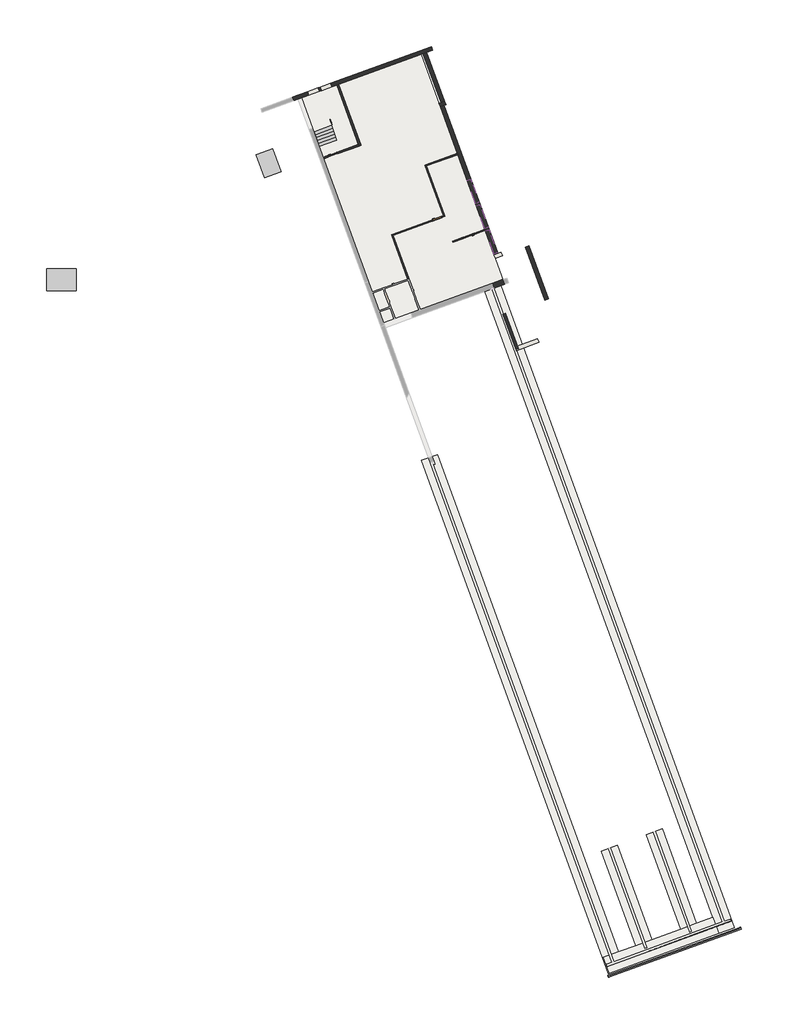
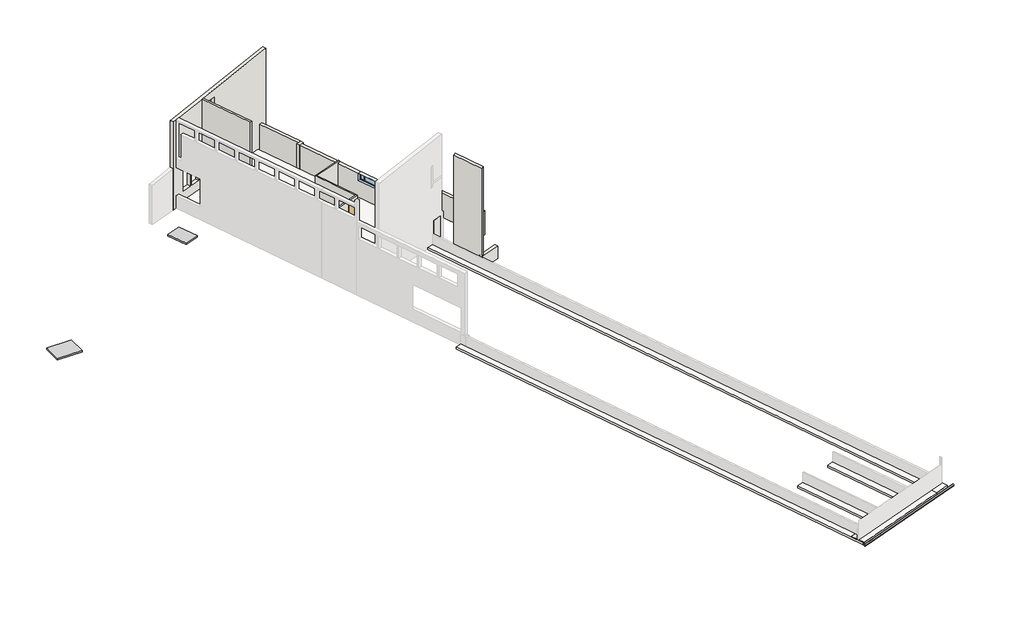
# One storey, part 2 of 2: 16 walls, 5 footings, 3 doors, 3 windows, 2 ramps, 1 pipe segment, 1 railing, 1 slab, 1 stair flight.
"""IFC4 building model written with IfcOpenShell, lengths in millimetres."""

from ifc_helpers import new_model, si_unit, point, frame, frame_2d, origin, place, context, project, spatial, polyline, circle_curve, trimmed, segment, composite_curve, outline, extrude, faceted_brep, transform, mapped, element, save
from components import door_10x21_b150b6ae, door_8x21_e3e5b9c7, door_9x21_ce0798c1, railing_900mm_04ecc8fe, ramp_1_f57f52c1, ramp_1_bff8a53a, window_19_5x7_a99c75e9

model = new_model("IFC4")

# Units and contexts
model_context = context("Model", 3, world=origin())
ifc_project = project(units=[si_unit("LENGTHUNIT", "METRE", prefix="MILLI")], contexts=[model_context])

# Site, building, storey
site = spatial("IfcSite", under=ifc_project)
building = spatial("IfcBuilding", under=site)
storey = spatial("IfcBuildingStorey", under=building, Name="0.8 kjellar tilbygg", Elevation=1500.0)

# Doors
placement = place(None, origin())
door_10x21_shape = door_10x21_b150b6ae(model_context)
element("IfcDoor", 1, ObjectType="Innerdør Slett (Diplomat) : 10x21", at=placement, inside=storey, context=model_context, shape_type="MappedRepresentation", body=[
    mapped(door_10x21_shape, transform((29794.6029803, 17775.0414957, 1500.0), x_axis=(0.9396926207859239, 0.34202014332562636, 0.0), y_axis=(-0.34202014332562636, 0.9396926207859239, 0.0), z_axis=(0.0, 0.0, 1.0))),
])
door_8x21_shape = door_8x21_e3e5b9c7(model_context)
element("IfcDoor", 2, ObjectType="Innerdør Slett (Diplomat) : 8x21", at=placement, inside=storey, context=model_context, shape_type="MappedRepresentation", body=[
    mapped(door_8x21_shape, transform((18970.8154774, 24288.6710435, 1500.0), x_axis=(-0.9396926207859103, -0.3420201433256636, 0.0), y_axis=(0.3420201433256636, -0.9396926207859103, 0.0), z_axis=(0.0, 0.0, 1.0))),
])
door_9x21_shape = door_9x21_ce0798c1(model_context)
element("IfcDoor", 3, ObjectType="Innerdør Slett (Diplomat) : 9x21", at=placement, inside=storey, context=model_context, shape_type="MappedRepresentation", body=[
    mapped(door_9x21_shape, transform((27343.1936905, 19179.4338847, 1500.0), x_axis=(-0.9396926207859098, -0.34202014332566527, 0.0), y_axis=(0.34202014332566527, -0.9396926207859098, 0.0), z_axis=(0.0, 0.0, 1.0))),
])

# Footings
element("IfcFooting", 4, ObjectType="Wall Foundation 200", at=placement, inside=storey, context=model_context, shape_type="Brep", body=[
    faceted_brep([(31142.3505252, 13336.4468127, 1300.0), (32410.9355633, 13798.1740062, 1300.0), (32410.9355633, 13798.1740062, 1100.0), (31142.3505252, 13336.4468127, 1100.0), (49358.3433587, -36711.5821704, 1300.0), (49820.0705522, -37980.1672084, 1300.0), (51088.6555903, -37518.4400149, 1300.0), (51088.6555903, -37518.4400149, 1100.0), (49820.0705522, -37980.1672084, 1100.0), (49358.3433587, -36711.5821704, 1100.0)], [[[0, 1, 2, 3]], [[0, 4, 5, 6, 1]], [[2, 1, 6, 7]], [[3, 2, 7, 8, 9]], [[0, 3, 9, 8, 5, 4]], [[6, 5, 8, 7]]]),
])
element("IfcFooting", 5, ObjectType="Wall Foundation 200", at=placement, inside=storey, context=model_context, shape_type="Brep", body=[
    faceted_brep([(41080.9291789, -41160.9545413, 1100.0), (41080.9291789, -41160.9545413, 1300.0), (40619.2019854, -39892.3695033, 1300.0), (40619.2019854, -39892.3695033, 1100.0), (49820.0705522, -37980.1672084, 1300.0), (49358.3433587, -36711.5821704, 1300.0), (48056.8690789, -37185.2800689, 1300.0), (46788.2840409, -37647.0072624, 1300.0), (44467.2432675, -38491.7970164, 1300.0), (43198.6582295, -38953.5242099, 1300.0), (41793.8177614, -39464.8443241, 1300.0), (49820.0705522, -37980.1672084, 1100.0), (41793.8177614, -39464.8443241, 1100.0), (43198.6582295, -38953.5242099, 1100.0), (44467.2432675, -38491.7970164, 1100.0), (46788.2840409, -37647.0072624, 1100.0), (48056.8690789, -37185.2800689, 1100.0), (49358.3433587, -36711.5821704, 1100.0)], [[[0, 1, 2, 3]], [[2, 1, 4, 5, 6, 7, 8, 9, 10]], [[1, 0, 11, 4]], [[0, 3, 12, 13, 14, 15, 16, 17, 11]], [[3, 2, 10, 9, 8, 7, 6, 5, 17, 16, 15, 14, 13, 12]], [[5, 4, 11, 17]]]),
])
element("IfcFooting", 6, ObjectType="Wall Foundation 200", at=placement, inside=storey, context=model_context, shape_type="SweptSolid", body=[
    extrude(outline(polyline([(26050.5776214, -157.7834705), (27319.1626594, 303.943723), (41793.8177614, -39464.8443241), (40619.2019854, -39892.3695033), (41080.9291789, -41160.9545413), (40986.9599168, -41195.1565557), (26050.5776214, -157.7834705)])), frame((0.0, 0.0, 1100.0), z_axis=(0.0, 0.0, 1.0), x_axis=(1.0, 0.0, 0.0)), (0.0, 0.0, 1.0), 200.0),
])
element("IfcFooting", 7, ObjectType="Wall Foundation 200", at=placement, inside=storey, context=model_context, shape_type="SweptSolid", body=[
    extrude(outline(polyline([(44038.4420886, -30091.8785912), (45307.0271266, -29630.1513977), (48056.8690789, -37185.2800689), (46788.2840409, -37647.0072624), (44038.4420886, -30091.8785912)])), frame((0.0, 0.0, 1100.0), z_axis=(0.0, 0.0, 1.0), x_axis=(1.0, 0.0, 0.0)), (0.0, 0.0, 1.0), 200.0),
])
element("IfcFooting", 8, ObjectType="Wall Foundation 200", at=placement, inside=storey, context=model_context, shape_type="SweptSolid", body=[
    extrude(outline(polyline([(40448.8162771, -31398.3955387), (41717.4013152, -30936.6683452), (44467.2432675, -38491.7970164), (43198.6582295, -38953.5242099), (40448.8162771, -31398.3955387)])), frame((0.0, 0.0, 1100.0), z_axis=(0.0, 0.0, 1.0), x_axis=(1.0, 0.0, 0.0)), (0.0, 0.0, 1.0), 200.0),
])

# Pipe segment
element("IfcPipeSegment", 9, ObjectType="Default", at=placement, inside=storey, context=model_context, shape_type="SweptSolid", body=[
    extrude(outline(composite_curve([segment(trimmed(circle_curve(frame_2d((0.0, 84.1375)), 84.1375), [point((84.1375, 84.1375))], [point((0.0, 0.0))], False, "CARTESIAN"), True, "CONTINUOUS"), segment(trimmed(circle_curve(frame_2d((0.0, 84.1375)), 84.1375), [point((0.0, 0.0))], [point((-84.1375, 84.1375))], False, "CARTESIAN"), True, "CONTINUOUS"), segment(trimmed(circle_curve(frame_2d((0.0, 84.1375)), 84.1375), [point((-84.1375, 84.1375))], [point((0.0, 168.275))], False, "CARTESIAN"), True, "CONTINUOUS"), segment(trimmed(circle_curve(frame_2d((0.0, 84.1375)), 84.1375), [point((0.0, 168.275))], [point((84.1375, 84.1375))], False, "CARTESIAN"), True, "CONTINUOUS")], self_intersect=False)), frame((40987.2439162, -41427.6293768, 1284.1375), z_axis=(0.9396926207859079, 0.3420201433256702, 0.0), x_axis=(0.3420201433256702, -0.9396926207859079, 0.0)), (0.0, 0.0, 1.0), 11300.0),
])

# Railing
railing_900mm_shape = railing_900mm_04ecc8fe(model_context)
element("IfcRailing", 10, ObjectType="900mm", at=placement, inside=storey, context=model_context, shape_type="MappedRepresentation", body=[
    mapped(railing_900mm_shape, transform((0.0, 0.0, 0.0), x_axis=(1.0, 0.0, 0.0), y_axis=(0.0, 1.0, 0.0), z_axis=(0.0, 0.0, 1.0))),
])

# Ramps
ramp_1_shape = ramp_1_f57f52c1(model_context)
element("IfcRamp", 11, ObjectType="Ramp 1", at=placement, inside=storey, context=model_context, shape_type="MappedRepresentation", body=[
    mapped(ramp_1_shape, transform((0.0, 0.0, 0.0), x_axis=(1.0, 0.0, 0.0), y_axis=(0.0, 1.0, 0.0), z_axis=(0.0, 0.0, 1.0))),
])
ramp_1_2_shape = ramp_1_bff8a53a(model_context)
element("IfcRamp", 12, ObjectType="Ramp 1", at=placement, inside=storey, context=model_context, shape_type="MappedRepresentation", body=[
    mapped(ramp_1_2_shape, transform((0.0, 0.0, 0.0), x_axis=(1.0, 0.0, 0.0), y_axis=(0.0, 1.0, 0.0), z_axis=(0.0, 0.0, 1.0))),
])

# Slab
element("IfcSlab", 13, ObjectType="Dekker Betong 200", at=placement, inside=storey, context=model_context, shape_type="SweptSolid", body=[
    extrude(outline(polyline([(16461.4359079, 28819.5908192), (25999.3160089, 32291.0952739), (32603.9181122, 14145.1001306), (23066.0380113, 10673.5956758), (16461.4359079, 28819.5908192)])), frame((0.0, 0.0, 1300.0), z_axis=(0.0, 0.0, 1.0), x_axis=(1.0, 0.0, 0.0)), (0.0, 0.0, 1.0), 200.0),
])

# Stair flight
element("IfcStairFlight", 14, ObjectType="Monolithic Run - Tre", at=placement, inside=storey, context=model_context, shape_type="Brep", body=[
    faceted_brep([(17820.9886368, 25185.4165472, 1655.0), (17906.4938601, 24950.4934603, 1655.0), (19269.4231724, 25446.5603932, 1655.0), (19183.9179491, 25681.4834801, 1655.0), (17820.9886368, 25185.4165472, 1500.0), (17906.4938601, 24950.4934603, 1500.0), (19269.4231724, 25446.5603932, 1500.0), (19183.9179491, 25681.4834801, 1500.0), (17735.4834135, 25420.3396342, 1810.0), (17820.9886368, 25185.4165472, 1810.0), (19183.9179491, 25681.4834801, 1810.0), (19098.4127257, 25916.4065671, 1810.0), (17735.4834135, 25420.3396342, 1633.509207), (17809.1333139, 25217.9886984, 1500.0), (19172.0626261, 25714.0556312, 1500.0), (19098.4127257, 25916.4065671, 1633.509207), (17649.9781902, 25655.2627211, 1965.0), (17735.4834135, 25420.3396342, 1965.0), (19098.4127257, 25916.4065671, 1965.0), (19012.9075024, 26151.329654, 1965.0), (17649.9781902, 25655.2627211, 1788.509207), (19012.9075024, 26151.329654, 1788.509207), (17564.4729668, 25890.1858081, 2120.0), (17649.9781902, 25655.2627211, 2120.0), (19012.9075024, 26151.329654, 2120.0), (18927.4022791, 26386.252741, 2120.0), (17564.4729668, 25890.1858081, 1943.509207), (18927.4022791, 26386.252741, 1943.509207), (17478.9677435, 26125.1088951, 2275.0), (17564.4729668, 25890.1858081, 2275.0), (18927.4022791, 26386.252741, 2275.0), (18841.8970558, 26621.1758279, 2275.0), (17478.9677435, 26125.1088951, 2098.509207), (18841.8970558, 26621.1758279, 2098.509207)], [[[0, 1, 2, 3]], [[1, 0, 4, 5]], [[2, 1, 5, 6]], [[3, 2, 6, 7]], [[8, 9, 10, 11]], [[4, 0, 9, 8, 12, 13]], [[0, 3, 10, 9]], [[3, 7, 14, 15, 11, 10]], [[16, 17, 18, 19]], [[17, 16, 20, 12, 8]], [[8, 11, 18, 17]], [[19, 18, 11, 15, 21]], [[22, 23, 24, 25]], [[23, 22, 26, 20, 16]], [[16, 19, 24, 23]], [[25, 24, 19, 21, 27]], [[28, 29, 30, 31]], [[29, 28, 32, 26, 22]], [[22, 25, 30, 29]], [[31, 30, 25, 27, 33]], [[28, 31, 33, 32]], [[5, 4, 13, 14, 7, 6]], [[14, 13, 12, 20, 26, 32, 33, 27, 21, 15]]]),
])

# Walls
element("IfcWall", 15, ObjectType="Yttervegg 150 betong + 150 leca innv puss", at=placement, inside=storey, context=model_context, shape_type="Brep", body=[
    faceted_brep([(26832.9823853, 32924.4201297, 1200.0), (15707.0217552, 28874.9016327, 1200.0), (15707.0217552, 28874.9016327, 5360.0876893), (15707.0217552, 28874.9016327, 10055.8794212), (26832.9823853, 32924.4201297, 11091.7451974), (20640.4080143, 30670.5073852, 7600.0), (20640.4080143, 30670.5073852, 9710.0), (19785.2877294, 30359.2690548, 9710.0), (19785.2877294, 30359.2690548, 7600.0), (16923.9236991, 29317.8177183, 2430.0), (17779.043984, 29629.0560488, 2430.0), (17779.043984, 29629.0560488, 4940.0), (16923.9236991, 29317.8177183, 4940.0), (17938.7917295, 29687.1994731, 2430.0), (18793.9120145, 29998.4378036, 2430.0), (18793.9120145, 29998.4378036, 4940.0), (17938.7917295, 29687.1994731, 4940.0), (15813.0479996, 28583.5969203, 1200.0), (16179.5281217, 28716.9847762, 1200.0), (16470.8328342, 28823.0110206, 1200.0), (26177.8576069, 32356.0791012, 1200.0), (26469.1623193, 32462.1053456, 1200.0), (26939.0086297, 32633.1154173, 1200.0), (26939.0086297, 32633.1154173, 11091.7451974), (26469.1623193, 32462.1053456, 11048.0008656), (26177.8576069, 32356.0791012, 11020.8793799), (19421.4676634, 29896.9542707, 10391.8358892), (19280.5137703, 29845.6512492, 10378.7125896), (16470.8328342, 28823.0110206, 10117.1214857), (16179.5281217, 28716.9847762, 10090.0), (15813.0479996, 28583.5969203, 10055.8794212), (15813.0479996, 28583.5969203, 5360.0876893), (20746.4342587, 30379.2026728, 9710.0), (20746.4342587, 30379.2026728, 7600.0), (19891.3139738, 30067.9643423, 7600.0), (19891.3139738, 30067.9643423, 9710.0), (17885.0702284, 29337.7513363, 2430.0), (17029.9499435, 29026.5130059, 2430.0), (17029.9499435, 29026.5130059, 4940.0), (17885.0702284, 29337.7513363, 4940.0), (18899.9382589, 29707.1330911, 2430.0), (18044.817974, 29395.8947607, 2430.0), (18044.817974, 29395.8947607, 4940.0), (18899.9382589, 29707.1330911, 4940.0)], [[[0, 1, 2, 3, 4], [5, 6, 7, 8], [9, 10, 11, 12], [13, 14, 15, 16]], [[17, 18, 19, 20, 21, 22, 23, 24, 25, 26, 27, 28, 29, 30, 31], [32, 33, 34, 35], [36, 37, 38, 39], [40, 41, 42, 43]], [[1, 0, 22, 21, 20, 19, 18, 17]], [[3, 2, 1, 17, 31, 30]], [[0, 4, 23, 22]], [[23, 4, 3, 30, 29, 28, 27, 26, 25, 24]], [[6, 5, 33, 32]], [[7, 6, 32, 35]], [[8, 7, 35, 34]], [[5, 8, 34, 33]], [[10, 9, 37, 36]], [[10, 36, 39, 11]], [[37, 9, 12, 38]], [[41, 40, 14, 13]], [[41, 13, 16, 42]], [[14, 40, 43, 15]], [[38, 12, 11, 39]], [[15, 43, 42, 16]]]),
])
element("IfcWall", 16, ObjectType="Yttervegg Betong - Massiv 150mm", at=placement, inside=storey, context=model_context, shape_type="Brep", body=[
    faceted_brep([(19280.5137703, 29845.6512492, 1500.0), (21004.613453, 25108.7263021, 1500.0), (21055.9164745, 24967.772409, 1500.0), (21055.9164745, 24967.772409, 3900.0), (21055.9164745, 24967.772409, 4100.0), (21053.8882135, 24973.3450104, 4100.0), (21053.8882135, 24973.3450104, 10378.7125896), (19280.5137703, 29845.6512492, 10378.7125896), (19421.4676634, 29896.9542707, 1500.0), (19421.4676634, 29896.9542707, 10391.8358892), (21194.8421066, 25024.6480319, 10391.8358892), (21194.8421066, 25024.6480319, 4100.0), (21196.8703676, 25019.0754305, 4100.0), (21196.8703676, 25019.0754305, 1500.0)], [[[0, 1, 2, 3, 4, 5, 6, 7]], [[8, 9, 10, 11, 12, 13]], [[2, 1, 0, 8, 13]], [[0, 7, 9, 8]], [[7, 6, 10, 9]], [[6, 5, 11, 10]], [[11, 5, 4, 12]], [[4, 3, 2, 13, 12]]]),
])
element("IfcWall", 17, ObjectType="Yttervegg 150 betong + 150 leca innv puss", at=placement, inside=storey, context=model_context, shape_type="SweptSolid", body=[
    extrude(outline(polyline([(27595.531101, 28461.053188), (26177.8576069, 32356.0791012), (26469.1623193, 32462.1053456), (27886.8358134, 28567.0794324), (27595.531101, 28461.053188)])), frame((0.0, 0.0, 1200.0), z_axis=(0.0, 0.0, 1.0), x_axis=(1.0, 0.0, 0.0)), (0.0, 0.0, 1.0), 2700.0),
])
element("IfcWall", 18, ObjectType="Yttervegg 150 betong + 150 leca innv puss", at=placement, inside=storey, context=model_context, shape_type="Brep", body=[
    faceted_brep([(27886.8358134, 28567.0794324, 1200.0), (27595.531101, 28461.053188, 1200.0), (27454.5772078, 28409.7501665, 1200.0), (27454.5772078, 28409.7501665, 3900.0), (27595.531101, 28461.053188, 3900.0), (27886.8358134, 28567.0794324, 3900.0), (27992.8620578, 28275.77472, 1200.0), (27992.8620578, 28275.77472, 3900.0), (27851.9081647, 28224.4716985, 3900.0), (27560.6034523, 28118.4454541, 3900.0), (27560.6034523, 28118.4454541, 1200.0), (27851.9081647, 28224.4716985, 1200.0)], [[[0, 1, 2, 3, 4, 5]], [[6, 7, 8, 9, 10, 11]], [[2, 1, 0, 6, 11, 10]], [[5, 4, 3, 9, 8, 7]], [[0, 5, 7, 6]], [[3, 2, 10, 9]]]),
])
element("IfcWall", 19, ObjectType="Yttervegg 150 betong + 150 leca innv puss", at=placement, inside=storey, context=model_context, shape_type="SweptSolid", body=[
    extrude(outline(polyline([(155.0, 0.0), (12735.564691, 0.0), (12735.564691, -2700.0), (155.0, -2700.0), (155.0, 0.0)]), holes=[polyline([(10728.2474647, -1970.0), (10728.2474647, -2690.0), (12698.2474648, -2690.0), (12698.2474648, -1970.0), (10728.2474647, -1970.0)]), polyline([(8578.2474647, -1970.0), (8578.2474647, -2690.0), (10548.2474648, -2690.0), (10548.2474648, -1970.0), (8578.2474647, -1970.0)]), polyline([(6428.2474648, -1970.0), (6428.2474648, -2690.0), (8398.2474648, -2690.0), (8398.2474648, -1970.0), (6428.2474648, -1970.0)])]), frame((27507.5903301, 28264.0978103, 1200.0), z_axis=(0.9396926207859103, 0.3420201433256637, 0.0), x_axis=(0.3420201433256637, -0.9396926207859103, 0.0)), (0.0, 0.0, 1.0), 310.0),
])
element("IfcWall", 20, ObjectType="Yttervegg Mur 250 Lettklinkerm/påforing 150 leca seksjonsskille", at=placement, inside=storey, context=model_context, shape_type="SweptSolid", body=[
    extrude(outline(polyline([(32572.6872048, 14304.0014535), (32716.335665, 13909.3305528), (31861.2153801, 13598.0922223), (31717.5669199, 13992.7631231), (32572.6872048, 14304.0014535)])), frame((0.0, 0.0, 1500.0), z_axis=(0.0, 0.0, 1.0), x_axis=(1.0, 0.0, 0.0)), (0.0, 0.0, 1.0), 2110.0),
])
element("IfcWall", 21, ObjectType="Yttervegg Betong - Massiv 150mm", at=placement, inside=storey, context=model_context, shape_type="SweptSolid", body=[
    extrude(outline(polyline([(1160.0000001, -2115.0), (1160.0000001, 0.0), (3000.0, 0.0), (3000.0, -2400.0), (10.0, -2400.0), (10.0, 0.0), (350.0, 0.0), (350.0, -2115.0), (1160.0000001, -2115.0)])), frame((18236.8386121, 23941.711979, 1500.0), z_axis=(-0.3420201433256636, 0.9396926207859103, 0.0), x_axis=(0.9396926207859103, 0.3420201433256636, 0.0)), (0.0, 0.0, 1.0), 150.0),
])
element("IfcWall", 22, ObjectType="Yttervegg 150 betong + 150 leca innv puss seksjonsskille", at=placement, inside=storey, context=model_context, shape_type="SweptSolid", body=[
    extrude(outline(polyline([(35446.812601, 9262.8355598), (33659.8798218, 8612.4452176), (33553.8535774, 8903.74993), (35340.7863566, 9554.1402723), (35446.812601, 9262.8355598)])), frame((0.0, 0.0, 1200.0), z_axis=(0.0, 0.0, 1.0), x_axis=(1.0, 0.0, 0.0)), (0.0, 0.0, 1.0), 1230.0),
])
element("IfcWall", 23, ObjectType="Yttervegg 150 betong + 150 leca innv puss seksjonsskille", at=placement, inside=storey, context=model_context, shape_type="SweptSolid", body=[
    extrude(outline(polyline([(34664.4746719, 16986.1907072), (36208.7487722, 12743.3324871), (35917.4440597, 12637.3062427), (34373.1699594, 16880.1644628), (34664.4746719, 16986.1907072)])), frame((0.0, 0.0, 1200.0), z_axis=(0.0, 0.0, 1.0), x_axis=(1.0, 0.0, 0.0)), (0.0, 0.0, 1.0), 2400.0),
])
element("IfcWall", 24, ObjectType="Yttervegg 150 betong + 150 leca innv puss seksjonsskille", at=placement, inside=storey, context=model_context, shape_type="Brep", body=[
    faceted_brep([(32413.700135, 16496.8708813, 1200.0), (31863.409991, 16296.5816486, 1200.0), (31863.409991, 16296.5816486, 2430.0), (32413.700135, 16496.8708813, 2430.0), (32519.7263795, 16205.5661688, 1200.0), (32519.7263795, 16205.5661688, 1329.9858833), (32519.7263795, 16205.5661688, 2430.0), (31969.4362354, 16005.2769362, 2430.0), (31969.4362354, 16005.2769362, 1200.0)], [[[0, 1, 2, 3]], [[4, 5, 6, 7, 8]], [[1, 0, 4, 8]], [[3, 2, 7, 6]], [[0, 3, 6, 5, 4]], [[2, 1, 8, 7]]]),
])
element("IfcWall", 25, ObjectType="Innervegg Betong - Massiv 200mm", at=placement, inside=storey, context=model_context, shape_type="Brep", body=[
    faceted_brep([(32579.9974108, 11528.9926757, 1500.0), (33604.4109623, 8710.9742535, 1500.0), (33604.4109623, 8710.9742535, 11189.4184558), (32579.9974108, 11528.9926757, 11189.8498369), (32767.9629587, 11597.3224116, 1500.0), (32767.9629587, 11597.3224116, 11262.6438781), (33792.3765102, 8779.3039894, 11262.212497), (33792.3765102, 8779.3039894, 1500.0)], [[[0, 1, 2, 3]], [[4, 5, 6, 7]], [[1, 0, 4, 7]], [[2, 1, 7, 6]], [[0, 3, 5, 4]], [[3, 2, 6, 5]]]),
])
element("IfcWall", 26, ObjectType="Retaining - 100mm Concrete", at=placement, inside=storey, context=model_context, shape_type="SweptSolid", body=[
    extrude(outline(polyline([(23786.2869225, 17831.6168064), (25044.9210499, 14373.5479619), (24950.9517878, 14339.3459476), (23692.3176604, 17797.4147921), (23786.2869225, 17831.6168064)])), frame((0.0, 0.0, 1500.0), z_axis=(0.0, 0.0, 1.0), x_axis=(1.0, 0.0, 0.0)), (0.0, 0.0, 1.0), 2600.0),
])
element("IfcWall", 27, ObjectType="Retaining - 100mm Concrete", at=placement, inside=storey, context=model_context, shape_type="Brep", body=[
    faceted_brep([(27737.6943929, 19269.8115091, 3615.0), (27737.6943929, 19269.8115091, 1500.0), (27920.9344539, 19336.5054371, 1500.0), (27920.9344539, 19336.5054371, 4100.0), (23786.2869225, 17831.6168064, 4100.0), (23692.3176604, 17797.4147921, 4100.0), (23692.3176604, 17797.4147921, 1500.0), (23786.2869225, 17831.6168064, 1500.0), (26882.574108, 18958.5731787, 1500.0), (26882.574108, 18958.5731787, 3615.0), (27886.7324396, 19430.4746991, 1500.0), (27792.7631775, 19396.2726848, 1500.0), (27703.4923785, 19363.7807712, 1500.0), (27703.4923785, 19363.7807712, 3615.0), (26848.3720936, 19052.5424408, 3615.0), (26848.3720936, 19052.5424408, 1500.0), (23658.1156461, 17891.3840542, 1500.0), (23658.1156461, 17891.3840542, 4100.0), (27792.7631775, 19396.2726848, 4100.0), (27886.7324396, 19430.4746991, 4100.0)], [[[0, 1, 2, 3, 4, 5, 6, 7, 8, 9]], [[10, 11, 12, 13, 14, 15, 16, 17, 18, 19]], [[2, 1, 12, 11, 10]], [[8, 7, 6, 16, 15]], [[3, 2, 10, 19]], [[5, 4, 3, 19, 18, 17]], [[6, 5, 17, 16]], [[13, 12, 1, 0]], [[14, 13, 0, 9]], [[15, 14, 9, 8]]]),
])
element("IfcWall", 28, ObjectType="Retaining - 100mm Concrete", at=placement, inside=storey, context=model_context, shape_type="Brep", body=[
    faceted_brep([(27886.7324396, 19430.4746991, 1500.0), (26450.2478376, 23377.1837064, 1500.0), (26416.0458233, 23471.1529685, 1500.0), (26416.0458233, 23471.1529685, 4100.0), (26450.2478376, 23377.1837064, 4100.0), (27886.7324396, 19430.4746991, 4100.0), (27792.7631775, 19396.2726848, 1500.0), (27792.7631775, 19396.2726848, 4100.0), (26322.0765612, 23436.9509542, 4100.0), (26322.0765612, 23436.9509542, 1500.0)], [[[0, 1, 2, 3, 4, 5]], [[6, 7, 8, 9]], [[2, 1, 0, 6, 9]], [[5, 4, 3, 8, 7]], [[0, 5, 7, 6]], [[3, 2, 9, 8]]]),
])
element("IfcWall", 29, ObjectType="Retaining - 100mm Concrete", at=placement, inside=storey, context=model_context, shape_type="SweptSolid", body=[
    extrude(outline(polyline([(49.9999999, 0.0), (2715.0, 0.0), (2715.0, -2400.0), (2864.9999999, -2400.0), (2864.9999999, -2600.0), (49.9999999, -2600.0), (49.9999999, 0.0)])), frame((26403.2632066, 23360.0826993, 1500.0), z_axis=(-0.3420201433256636, 0.9396926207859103, 0.0), x_axis=(0.9396926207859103, 0.3420201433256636, 0.0)), (0.0, 0.0, 1.0), 100.0),
])
element("IfcWall", 30, ObjectType="Retaining - 100mm Concrete", at=placement, inside=storey, context=model_context, shape_type="SweptSolid", body=[
    extrude(outline(polyline([(4265.0000001, -2600.0), (1340.0000001, -2600.0), (1340.0000001, 0.0), (2225.0, 0.0), (2225.0, -2115.0), (3235.0000001, -2115.0), (3235.0000001, 0.0), (4115.0000001, 0.0), (4115.0000001, -2400.0), (4265.0000001, -2400.0), (4265.0000001, -2600.0)])), frame((27296.5035799, 16812.5987831, 1500.0), z_axis=(-0.34202014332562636, 0.9396926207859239, 0.0), x_axis=(0.9396926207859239, 0.34202014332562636, 0.0)), (0.0, 0.0, 1.0), 100.0),
])

# Windows
window_19_5x7_shape = window_19_5x7_a99c75e9(model_context)
element("IfcWindow", 31, ObjectType="Vindu 2 felt med åpning side : 19,5x7", at=placement, inside=storey, context=model_context, shape_type="MappedRepresentation", body=[
    mapped(window_19_5x7_shape, transform((31692.7041776, 17277.2577865, 2370.0), x_axis=(0.34202014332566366, -0.9396926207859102, 0.0), y_axis=(0.9396926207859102, 0.34202014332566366, 0.0), z_axis=(0.0, 0.0, 1.0))),
])
element("IfcWindow", 32, ObjectType="Vindu 2 felt med åpning side : 19,5x7", at=placement, inside=storey, context=model_context, shape_type="MappedRepresentation", body=[
    mapped(window_19_5x7_shape, transform((30957.3608694, 19297.5969212, 2370.0), x_axis=(0.34202014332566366, -0.9396926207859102, 0.0), y_axis=(0.9396926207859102, 0.34202014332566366, 0.0), z_axis=(0.0, 0.0, 1.0))),
])
element("IfcWindow", 33, ObjectType="Vindu 2 felt med åpning side : 19,5x7", at=placement, inside=storey, context=model_context, shape_type="MappedRepresentation", body=[
    mapped(window_19_5x7_shape, transform((30222.0175613, 21317.9360559, 2370.0), x_axis=(0.34202014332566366, -0.9396926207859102, 0.0), y_axis=(0.9396926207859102, 0.34202014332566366, 0.0), z_axis=(0.0, 0.0, 1.0))),
])

save(model, "model.ifc")
